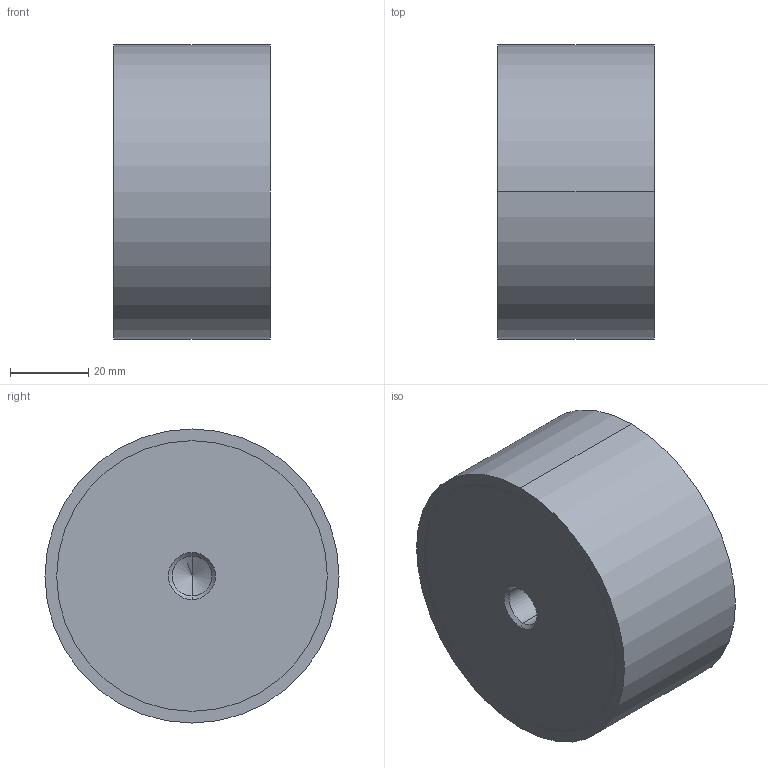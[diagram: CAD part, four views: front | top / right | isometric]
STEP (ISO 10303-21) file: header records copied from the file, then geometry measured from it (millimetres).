
FILE_DESCRIPTION (( 'STEP AP214' ), '1' );
FILE_NAME ('351-75-40-M12-EE-40.step', '2025-07-23T09:56:47', ( '' ), ( '' ), 'SwSTEP 2.0', 'SolidWorks 2022', '' );
FILE_SCHEMA (( 'AUTOMOTIVE_DESIGN' ));
Length unit declared in the file: millimetre
Products named in the file (1): 351-75-40-M12-EE-40
Bounding box: 40 x 75 x 75 mm (x, y, z)
Volume: 174254.5 mm3; surface area: 19121.4 mm2
Topology: 1 solids, 1 shells, 28 faces, 58 edges, 34 vertices
Faces by surface type: cylinder 14, cone 8, plane 6
Entity records: 844 total; most frequent: DIRECTION 144, CARTESIAN_POINT 117, ORIENTED_EDGE 108, AXIS2_PLACEMENT_3D 61, EDGE_CURVE 54, VERTEX_POINT 34, EDGE_LOOP 34, CIRCLE 32
